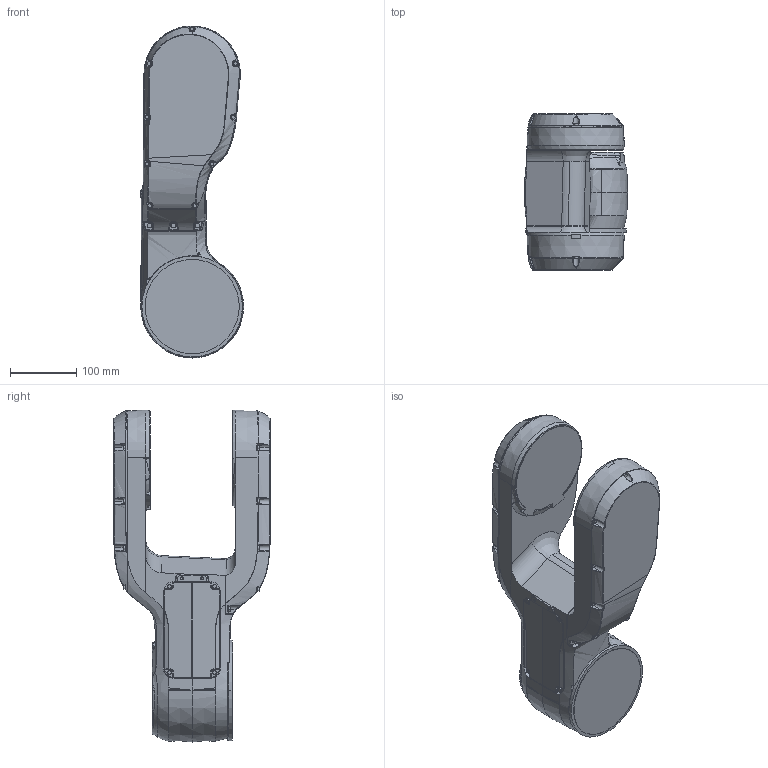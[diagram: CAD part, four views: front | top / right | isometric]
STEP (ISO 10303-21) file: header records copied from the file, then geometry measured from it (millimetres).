
FILE_DESCRIPTION (( 'STEP AP214' ), '1' );
FILE_NAME ('IRB1200H_7-70_IRC5_Link2_rev0.step', '2022-01-17T08:45:41', ( '' ), ( '' ), 'SwSTEP 2.0', 'SolidWorks 2020', '' );
FILE_SCHEMA (( 'AUTOMOTIVE_DESIGN' ));
Length unit declared in the file: millimetre
Products named in the file (1): IRB1200H_7-70_IRC5_Link2_rev0
Bounding box: 155.5 x 235 x 499.94 mm (x, y, z)
Volume: 6994458.5 mm3; surface area: 333303.4 mm2
Topology: 1 solids, 13 shells, 1119 faces, 2804 edges, 1706 vertices
Faces by surface type: bspline 511, plane 237, cylinder 210, cone 84, torus 61, sphere 16
Entity records: 67273 total; most frequent: CARTESIAN_POINT 44940, ORIENTED_EDGE 5548, DIRECTION 3406, EDGE_CURVE 2774, VERTEX_POINT 1706, AXIS2_PLACEMENT_3D 1405, B_SPLINE_CURVE_WITH_KNOTS 1302, EDGE_LOOP 1146
